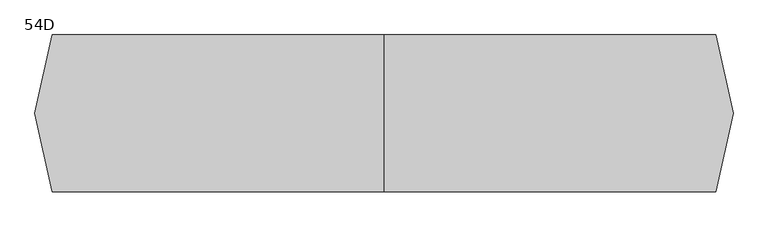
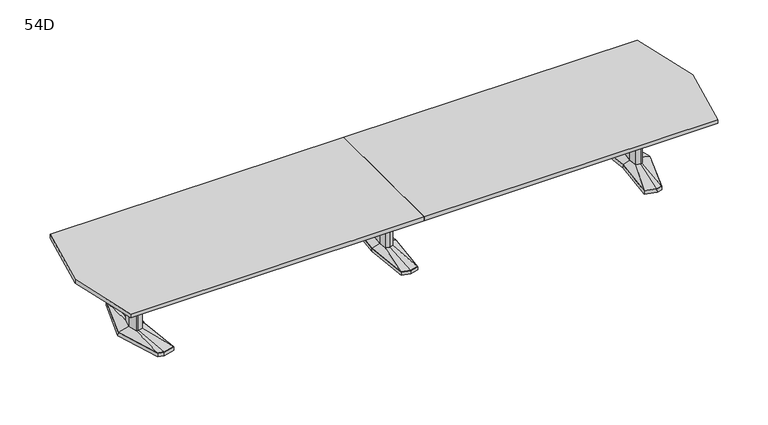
"""IFC4 building model written with IfcOpenShell, lengths in millimetres: furniture geometry, Coalesse_AM_Table_Conference_ETable2_Faceted_20ft_AluminiumBase : 54D."""

from ifc_helpers import new_model, si_unit, frame, origin, place, context, project, spatial, polyline, outline, extrude, faceted_brep, source, transform, mapped, element, save
from ifc_brep_helpers import plane_surface, spline_surface, advanced_brep


def furniture_54d_86afbeeb(model_context):
    return source(origin(), model_context, "Body", "SolidModel", [
        faceted_brep([(-81.2333791, -433.8053819, 38.1), (0.0, -455.556576, 38.1), (81.2333791, -433.8053819, 38.1), (119.0564774, 0.0, 38.1), (81.2333791, 433.8053819, 38.1), (0.0, 455.556576, 38.1), (-81.2333791, 433.8053819, 38.1), (-119.0564774, 0.0, 38.1), (-82.7182795, -435.0512063, 3.175), (-120.65, 0.0, 3.175), (-82.7182795, 435.0512063, 3.175), (0.0, 457.2, 3.175), (82.7182795, 435.0512063, 3.175), (120.65, 0.0, 3.175), (82.7182795, -435.0512063, 3.175), (0.0, -457.2, 3.175), (0.0, 429.2617927, 3.175), (-77.9676806, 408.3850278, 3.175), (-74.7019821, 382.9646737, 3.175), (0.0, 402.9670094, 3.175), (74.7019821, 382.9646737, 3.175), (77.9676806, 408.3850278, 3.175), (0.0, -429.2617927, 3.175), (77.9676806, -408.3850278, 3.175), (74.7019821, -382.9646737, 3.175), (0.0, -402.9670094, 3.175), (-74.7019821, -382.9646737, 3.175), (-77.9676806, -408.3850278, 3.175), (-71.8574262, 114.6326257, 3.175), (-82.5426076, 0.0, 3.175), (-71.8574262, -114.6326257, 3.175), (0.0, -133.8761372, 3.175), (71.8574262, -114.6326257, 3.175), (82.5426076, 0.0, 3.175), (71.8574262, 114.6326257, 3.175), (0.0, 133.8761372, 3.175), (0.0, 429.2617927, 0.0), (77.9676806, 408.3850278, 0.0), (74.7019821, 382.9646737, 0.0), (0.0, 402.9670094, 0.0), (-74.7019821, 382.9646737, 0.0), (-77.9676806, 408.3850278, 0.0), (0.0, -429.2617927, 0.0), (-77.9676806, -408.3850278, 0.0), (-74.7019821, -382.9646737, 0.0), (0.0, -402.9670094, 0.0), (74.7019821, -382.9646737, 0.0), (77.9676806, -408.3850278, 0.0), (-71.8574262, 114.6326257, 0.0), (0.0, 133.8761372, 0.0), (71.8574262, 114.6326257, 0.0), (82.5426076, 0.0, 0.0), (71.8574262, -114.6326257, 0.0), (0.0, -133.8761372, 0.0), (-71.8574262, -114.6326257, 0.0), (-82.5426076, 0.0, 0.0)], [[[0, 1, 2, 3, 4, 5, 6, 7]], [[8, 9, 10, 11, 12, 13, 14, 15], [16, 17, 18, 19, 20, 21], [22, 23, 24, 25, 26, 27], [28, 29, 30, 31, 32, 33, 34, 35]], [[1, 0, 8, 15]], [[2, 1, 15, 14]], [[3, 2, 14, 13]], [[4, 3, 13, 12]], [[5, 4, 12, 11]], [[6, 5, 11, 10]], [[7, 6, 10, 9]], [[0, 7, 9, 8]], [[36, 37, 38, 39, 40, 41]], [[42, 43, 44, 45, 46, 47]], [[48, 49, 50, 51, 52, 53, 54, 55]], [[36, 41, 17, 16]], [[41, 40, 18, 17]], [[40, 39, 19, 18]], [[39, 38, 20, 19]], [[38, 37, 21, 20]], [[37, 36, 16, 21]], [[42, 47, 23, 22]], [[47, 46, 24, 23]], [[46, 45, 25, 24]], [[45, 44, 26, 25]], [[44, 43, 27, 26]], [[43, 42, 22, 27]], [[48, 55, 29, 28]], [[55, 54, 30, 29]], [[54, 53, 31, 30]], [[53, 52, 32, 31]], [[52, 51, 33, 32]], [[51, 50, 34, 33]], [[50, 49, 35, 34]], [[49, 48, 28, 35]]]),
        faceted_brep([(-36.3832834, 84.6900825, 698.5), (-44.2774487, 0.0, 698.5), (-36.3832834, -84.6900825, 698.5), (0.0, -94.4335728, 698.5), (36.3832834, -84.6900825, 698.5), (44.2774487, 0.0, 698.5), (36.3832834, 84.6900825, 698.5), (0.0, 94.4335728, 698.5), (-36.3832834, 84.6900825, 63.5), (0.0, 94.4335728, 63.5), (36.3832834, 84.6900825, 63.5), (44.2774487, 0.0, 63.5), (36.3832834, -84.6900825, 63.5), (0.0, -94.4335728, 63.5), (-36.3832834, -84.6900825, 63.5), (-44.2774487, 0.0, 63.5)], [[[0, 1, 2, 3, 4, 5, 6, 7]], [[8, 9, 10, 11, 12, 13, 14, 15]], [[1, 0, 8, 15]], [[2, 1, 15, 14]], [[3, 2, 14, 13]], [[4, 3, 13, 12]], [[5, 4, 12, 11]], [[6, 5, 11, 10]], [[7, 6, 10, 9]], [[0, 7, 9, 8]]]),
        advanced_brep(
        [(-36.3832834, 84.6900825, 63.5), (-44.2774487, 0.0, 63.5), (-36.3832834, -84.6900825, 63.5), (0.0, -94.4335728, 63.5), (36.3832834, -84.6900825, 63.5), (44.2774487, 0.0, 63.5), (36.3832834, 84.6900825, 63.5), (0.0, 94.4335728, 63.5), (-81.2333791, 433.8053819, 38.1), (0.0, 455.556576, 38.1), (81.2333791, 433.8053819, 38.1), (119.0564774, 0.0, 38.1), (81.2333791, -433.8053819, 38.1), (0.0, -455.556576, 38.1), (-81.2333791, -433.8053819, 38.1), (-119.0564774, 0.0, 38.1)],
        [
            (0, 1),
            (1, 2),
            (2, 3),
            (3, 4),
            (4, 5),
            (5, 6),
            (6, 7),
            (7, 0),
            (8, 9),
            (9, 10),
            (10, 11),
            (11, 12),
            (12, 13),
            (13, 14),
            (14, 15),
            (15, 8),
            (15, 1),
            (0, 8),
            (14, 2),
            (13, 3),
            (12, 4),
            (11, 5),
            (10, 6),
            (9, 7),
        ],
        [
            plane_surface(frame((0.0, 0.0, 63.5), z_axis=(0.0, 0.0, 1.0000000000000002), x_axis=(-0.9659615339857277, -0.25868574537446, 0.0))),
            plane_surface(frame((0.0, 0.0, 38.1), z_axis=(0.0, 0.0, -1.0000000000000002), x_axis=(-0.9659615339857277, -0.25868574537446, 0.0))),
            spline_surface(1, 1, [[(-81.2333791, 433.8053819, 38.1), (-36.3832834, 84.6900825, 63.5)], [(-119.0564774, 0.0, 38.1), (-44.2774487, 0.0, 63.5)]], [2, 2], [2, 2], [0.0, 1.0], [0.0, 1.0]),
            spline_surface(1, 1, [[(-119.0564774, 0.0, 38.1), (-44.2774487, 0.0, 63.5)], [(-81.2333791, -433.8053819, 38.1), (-36.3832834, -84.6900825, 63.5)]], [2, 2], [2, 2], [0.0, 1.0], [0.0, 1.0]),
            spline_surface(1, 1, [[(-81.2333791, -433.8053819, 38.1), (-36.3832834, -84.6900825, 63.5)], [(0.0, -455.556576, 38.1), (0.0, -94.4335728, 63.5)]], [2, 2], [2, 2], [0.0, 1.0], [0.0, 1.0]),
            spline_surface(1, 1, [[(0.0, -455.556576, 38.1), (0.0, -94.4335728, 63.5)], [(81.2333791, -433.8053819, 38.1), (36.3832834, -84.6900825, 63.5)]], [2, 2], [2, 2], [0.0, 1.0], [0.0, 1.0]),
            spline_surface(1, 1, [[(81.2333791, -433.8053819, 38.1), (36.3832834, -84.6900825, 63.5)], [(119.0564774, 0.0, 38.1), (44.2774487, 0.0, 63.5)]], [2, 2], [2, 2], [0.0, 1.0], [0.0, 1.0]),
            spline_surface(1, 1, [[(119.0564774, 0.0, 38.1), (44.2774487, 0.0, 63.5)], [(81.2333791, 433.8053819, 38.1), (36.3832834, 84.6900825, 63.5)]], [2, 2], [2, 2], [0.0, 1.0], [0.0, 1.0]),
            spline_surface(1, 1, [[(81.2333791, 433.8053819, 38.1), (36.3832834, 84.6900825, 63.5)], [(0.0, 455.556576, 38.1), (0.0, 94.4335728, 63.5)]], [2, 2], [2, 2], [0.0, 1.0], [0.0, 1.0]),
            spline_surface(1, 1, [[(0.0, 455.556576, 38.1), (0.0, 94.4335728, 63.5)], [(-81.2333791, 433.8053819, 38.1), (-36.3832834, 84.6900825, 63.5)]], [2, 2], [2, 2], [0.0, 1.0], [0.0, 1.0]),
        ],
        [
            (0, [[1, 2, 3, 4, 5, 6, 7, 8]]),
            (1, [[9, 10, 11, 12, 13, 14, 15, 16]]),
            (2, [[-16, 17, -1, 18]]),
            (3, [[-15, 19, -2, -17]]),
            (4, [[-14, 20, -3, -19]]),
            (5, [[-13, 21, -4, -20]]),
            (6, [[-12, 22, -5, -21]]),
            (7, [[-11, 23, -6, -22]]),
            (8, [[-10, 24, -7, -23]]),
            (9, [[-9, -18, -8, -24]]),
        ],
    ),
        faceted_brep([(2429.8306835, 455.5848221, 38.1), (2320.2531277, 426.2263816, 38.1), (2361.4163717, 0.0, 38.1), (2320.2531277, -426.2263816, 38.1), (2429.8306835, -455.5848221, 38.1), (2485.9570396, -440.5478297, 38.1), (2623.2684269, 0.0, 38.1), (2485.9570396, 440.5478297, 38.1), (2429.8306754, 457.2283104, 3.175), (2487.2124472, 441.8549756, 3.175), (2624.93125, 0.0, 3.175), (2487.2124472, -441.8549756, 3.175), (2429.8306754, -457.2283104, 3.175), (2318.54375, -427.4118891, 3.175), (2359.8214856, 0.0, 3.175), (2318.54375, 427.4118891, 3.175), (2433.420115, 428.3273875, 3.175), (2328.3718228, 402.1057253, 3.175), (2336.490518, 377.985069, 3.175), (2437.0095466, 401.0699529, 3.175), (2487.5691725, 387.524361, 3.175), (2486.7631061, 414.0360954, 3.175), (2433.420115, -428.3273875, 3.175), (2486.7631061, -414.0360954, 3.175), (2487.5691725, -387.524361, 3.175), (2437.0095466, -401.0699529, 3.175), (2336.490518, -377.985069, 3.175), (2328.3718228, -402.1057253, 3.175), (2560.0153621, 0.0, 3.175), (2527.7459611, 120.4193755, 3.175), (2479.0987222, 133.471665, 3.175), (2399.2180526, 119.4176561, 3.175), (2388.0868466, 0.0, 3.175), (2399.2180526, -119.4176561, 3.175), (2479.0987222, -133.471665, 3.175), (2527.7459611, -120.4193755, 3.175), (2433.420115, 428.3273875, 0.0), (2486.7631061, 414.0360954, 0.0), (2487.5691725, 387.524361, 0.0), (2437.0095466, 401.0699529, 0.0), (2336.490518, 377.985069, 0.0), (2328.3718228, 402.1057253, 0.0), (2433.420115, -428.3273875, 0.0), (2328.3718228, -402.1057253, 0.0), (2336.490518, -377.985069, 0.0), (2437.0095466, -401.0699529, 0.0), (2487.5691725, -387.524361, 0.0), (2486.7631061, -414.0360954, 0.0), (2560.0153621, 0.0, 0.0), (2527.7459611, -120.4193755, 0.0), (2479.0987222, -133.471665, 0.0), (2399.2180526, -119.4176561, 0.0), (2388.0868466, 0.0, 0.0), (2399.2180526, 119.4176561, 0.0), (2479.0987222, 133.471665, 0.0), (2527.7459611, 120.4193755, 0.0)], [[[0, 1, 2, 3, 4, 5, 6, 7]], [[8, 9, 10, 11, 12, 13, 14, 15], [16, 17, 18, 19, 20, 21], [22, 23, 24, 25, 26, 27], [28, 29, 30, 31, 32, 33, 34, 35]], [[7, 9, 8, 0]], [[6, 10, 9, 7]], [[5, 11, 10, 6]], [[4, 12, 11, 5]], [[3, 13, 12, 4]], [[2, 14, 13, 3]], [[1, 15, 14, 2]], [[0, 8, 15, 1]], [[36, 37, 38, 39, 40, 41]], [[42, 43, 44, 45, 46, 47]], [[48, 49, 50, 51, 52, 53, 54, 55]], [[36, 16, 21, 37]], [[37, 21, 20, 38]], [[38, 20, 19, 39]], [[39, 19, 18, 40]], [[40, 18, 17, 41]], [[41, 17, 16, 36]], [[42, 22, 27, 43]], [[43, 27, 26, 44]], [[44, 26, 25, 45]], [[45, 25, 24, 46]], [[46, 24, 23, 47]], [[47, 23, 22, 42]], [[48, 28, 35, 49]], [[49, 35, 34, 50]], [[50, 34, 33, 51]], [[51, 33, 32, 52]], [[52, 32, 31, 53]], [[53, 31, 30, 54]], [[54, 30, 29, 55]], [[55, 29, 28, 48]]]),
        faceted_brep([(2520.5710836, 0.0, 698.5), (2496.6358546, 89.3188359, 698.5), (2479.7824984, 93.8406728, 698.5), (2477.3826511, 94.4845635, 698.5), (2434.455146, 86.9320037, 698.5), (2426.3520056, 0.0, 698.5), (2434.455146, -86.9320037, 698.5), (2477.3826511, -94.4845635, 698.5), (2479.7824984, -93.8406728, 698.5), (2496.6358546, -89.3188359, 698.5), (2520.5710836, 0.0, 63.5), (2496.6358546, -89.3188359, 63.5), (2479.7824984, -93.8406728, 63.5), (2477.3826511, -94.4845635, 63.5), (2434.455146, -86.9320037, 63.5), (2426.3520056, 0.0, 63.5), (2434.455146, 86.9320037, 63.5), (2477.3826511, 94.4845635, 63.5), (2479.7824984, 93.8406728, 63.5), (2496.6358546, 89.3188359, 63.5)], [[[0, 1, 2, 3, 4, 5, 6, 7, 8, 9]], [[10, 11, 12, 13, 14, 15, 16, 17, 18, 19]], [[9, 11, 10, 0]], [[8, 12, 11, 9]], [[7, 13, 12, 8]], [[6, 14, 13, 7]], [[5, 15, 14, 6]], [[4, 16, 15, 5]], [[3, 17, 16, 4]], [[2, 18, 17, 3]], [[1, 19, 18, 2]], [[0, 10, 19, 1]]]),
        advanced_brep(
        [(2477.3826511, 94.4845635, 63.5), (2434.455146, 86.9320037, 63.5), (2426.3520056, 0.0, 63.5), (2434.455146, -86.9320037, 63.5), (2477.3826511, -94.4845635, 63.5), (2496.6358546, -89.3188359, 63.5), (2520.5710836, 0.0, 63.5), (2496.6358546, 89.3188359, 63.5), (2429.8306835, 455.5848221, 38.1), (2485.9570396, 440.5478297, 38.1), (2623.2684269, 0.0, 38.1), (2485.9570396, -440.5478297, 38.1), (2429.8306835, -455.5848221, 38.1), (2320.2531277, -426.2263816, 38.1), (2361.4163717, 0.0, 38.1), (2320.2531277, 426.2263816, 38.1)],
        [
            (0, 1),
            (1, 2),
            (2, 3),
            (3, 4),
            (4, 5),
            (5, 6),
            (6, 7),
            (7, 0),
            (8, 9),
            (9, 10),
            (10, 11),
            (11, 12),
            (12, 13),
            (13, 14),
            (14, 15),
            (15, 8),
            (8, 0),
            (7, 9),
            (6, 10),
            (5, 11),
            (4, 12),
            (3, 13),
            (2, 14),
            (1, 15),
        ],
        [
            plane_surface(frame((2470.4837991, 0.0, 63.5), z_axis=(0.0, 0.0, 1.0), x_axis=(-0.25884244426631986, -0.9659195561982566, 0.0))),
            plane_surface(frame((2432.0958125, 0.0, 38.1), z_axis=(0.0, 0.0, -1.0), x_axis=(-0.25884244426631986, -0.9659195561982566, 0.0))),
            spline_surface(1, 1, [[(2429.8306835, 455.5848221, 38.1), (2485.9570396, 440.5478297, 38.1)], [(2477.3826511, 94.4845635, 63.5), (2496.6358546, 89.3188359, 63.5)]], [2, 2], [2, 2], [0.0, 1.0], [0.0, 1.0]),
            spline_surface(1, 1, [[(2485.9570396, 440.5478297, 38.1), (2623.2684269, 0.0, 38.1)], [(2496.6358546, 89.3188359, 63.5), (2520.5710836, 0.0, 63.5)]], [2, 2], [2, 2], [0.0, 1.0], [0.0, 1.0]),
            spline_surface(1, 1, [[(2623.2684269, 0.0, 38.1), (2485.9570396, -440.5478297, 38.1)], [(2520.5710836, 0.0, 63.5), (2496.6358546, -89.3188359, 63.5)]], [2, 2], [2, 2], [0.0, 1.0], [0.0, 1.0]),
            spline_surface(1, 1, [[(2485.9570396, -440.5478297, 38.1), (2429.8306835, -455.5848221, 38.1)], [(2496.6358546, -89.3188359, 63.5), (2477.3826511, -94.4845635, 63.5)]], [2, 2], [2, 2], [0.0, 1.0], [0.0, 1.0]),
            spline_surface(1, 1, [[(2429.8306835, -455.5848221, 38.1), (2320.2531277, -426.2263816, 38.1)], [(2477.3826511, -94.4845635, 63.5), (2434.455146, -86.9320037, 63.5)]], [2, 2], [2, 2], [0.0, 1.0], [0.0, 1.0]),
            spline_surface(1, 1, [[(2320.2531277, -426.2263816, 38.1), (2361.4163717, 0.0, 38.1)], [(2434.455146, -86.9320037, 63.5), (2426.3520056, 0.0, 63.5)]], [2, 2], [2, 2], [0.0, 1.0], [0.0, 1.0]),
            spline_surface(1, 1, [[(2361.4163717, 0.0, 38.1), (2320.2531277, 426.2263816, 38.1)], [(2426.3520056, 0.0, 63.5), (2434.455146, 86.9320037, 63.5)]], [2, 2], [2, 2], [0.0, 1.0], [0.0, 1.0]),
            spline_surface(1, 1, [[(2320.2531277, 426.2263816, 38.1), (2429.8306835, 455.5848221, 38.1)], [(2434.455146, 86.9320037, 63.5), (2477.3826511, 94.4845635, 63.5)]], [2, 2], [2, 2], [0.0, 1.0], [0.0, 1.0]),
        ],
        [
            (0, [[1, 2, 3, 4, 5, 6, 7, 8]]),
            (1, [[9, 10, 11, 12, 13, 14, 15, 16]]),
            (2, [[17, -8, 18, -9]]),
            (3, [[-18, -7, 19, -10]]),
            (4, [[-19, -6, 20, -11]]),
            (5, [[-20, -5, 21, -12]]),
            (6, [[-21, -4, 22, -13]]),
            (7, [[-22, -3, 23, -14]]),
            (8, [[-23, -2, 24, -15]]),
            (9, [[-24, -1, -17, -16]]),
        ],
    ),
        faceted_brep([(-2429.8306835, 455.5848221, 38.1), (-2485.9570396, 440.5478297, 38.1), (-2623.2684269, 0.0, 38.1), (-2485.9570396, -440.5478297, 38.1), (-2429.8306835, -455.5848221, 38.1), (-2320.2531277, -426.2263816, 38.1), (-2361.4163717, 0.0, 38.1), (-2320.2531277, 426.2263816, 38.1), (-2429.8306754, 457.2283104, 3.175), (-2318.54375, 427.4118891, 3.175), (-2359.8214856, 0.0, 3.175), (-2318.54375, -427.4118891, 3.175), (-2429.8306754, -457.2283104, 3.175), (-2487.2124472, -441.8549756, 3.175), (-2624.93125, 0.0, 3.175), (-2487.2124472, 441.8549756, 3.175), (-2433.420115, 428.3273875, 3.175), (-2486.7631061, 414.0360954, 3.175), (-2487.5691725, 387.524361, 3.175), (-2437.0095466, 401.0699529, 3.175), (-2336.490518, 377.985069, 3.175), (-2328.3718228, 402.1057253, 3.175), (-2433.420115, -428.3273875, 3.175), (-2328.3718228, -402.1057253, 3.175), (-2336.490518, -377.985069, 3.175), (-2437.0095466, -401.0699529, 3.175), (-2487.5691725, -387.524361, 3.175), (-2486.7631061, -414.0360954, 3.175), (-2560.0153621, 0.0, 3.175), (-2527.7459611, -120.4193755, 3.175), (-2479.0987222, -133.471665, 3.175), (-2399.2180526, -119.4176561, 3.175), (-2388.0868466, 0.0, 3.175), (-2399.2180526, 119.4176561, 3.175), (-2479.0987222, 133.471665, 3.175), (-2527.7459611, 120.4193755, 3.175), (-2433.420115, 428.3273875, 0.0), (-2328.3718228, 402.1057253, 0.0), (-2336.490518, 377.985069, 0.0), (-2437.0095466, 401.0699529, 0.0), (-2487.5691725, 387.524361, 0.0), (-2486.7631061, 414.0360954, 0.0), (-2433.420115, -428.3273875, 0.0), (-2486.7631061, -414.0360954, 0.0), (-2487.5691725, -387.524361, 0.0), (-2437.0095466, -401.0699529, 0.0), (-2336.490518, -377.985069, 0.0), (-2328.3718228, -402.1057253, 0.0), (-2560.0153621, 0.0, 0.0), (-2527.7459611, 120.4193755, 0.0), (-2479.0987222, 133.471665, 0.0), (-2399.2180526, 119.4176561, 0.0), (-2388.0868466, 0.0, 0.0), (-2399.2180526, -119.4176561, 0.0), (-2479.0987222, -133.471665, 0.0), (-2527.7459611, -120.4193755, 0.0)], [[[0, 1, 2, 3, 4, 5, 6, 7]], [[8, 9, 10, 11, 12, 13, 14, 15], [16, 17, 18, 19, 20, 21], [22, 23, 24, 25, 26, 27], [28, 29, 30, 31, 32, 33, 34, 35]], [[1, 0, 8, 15]], [[2, 1, 15, 14]], [[3, 2, 14, 13]], [[4, 3, 13, 12]], [[5, 4, 12, 11]], [[6, 5, 11, 10]], [[7, 6, 10, 9]], [[0, 7, 9, 8]], [[36, 37, 38, 39, 40, 41]], [[42, 43, 44, 45, 46, 47]], [[48, 49, 50, 51, 52, 53, 54, 55]], [[36, 41, 17, 16]], [[41, 40, 18, 17]], [[40, 39, 19, 18]], [[39, 38, 20, 19]], [[38, 37, 21, 20]], [[37, 36, 16, 21]], [[42, 47, 23, 22]], [[47, 46, 24, 23]], [[46, 45, 25, 24]], [[45, 44, 26, 25]], [[44, 43, 27, 26]], [[43, 42, 22, 27]], [[48, 55, 29, 28]], [[55, 54, 30, 29]], [[54, 53, 31, 30]], [[53, 52, 32, 31]], [[52, 51, 33, 32]], [[51, 50, 34, 33]], [[50, 49, 35, 34]], [[49, 48, 28, 35]]]),
        faceted_brep([(-2520.5710836, 0.0, 698.5), (-2496.6358546, -89.3188359, 698.5), (-2479.7824984, -93.8406728, 698.5), (-2477.3826511, -94.4845635, 698.5), (-2434.455146, -86.9320037, 698.5), (-2426.3520056, 0.0, 698.5), (-2434.455146, 86.9320037, 698.5), (-2477.3826511, 94.4845635, 698.5), (-2479.7824984, 93.8406728, 698.5), (-2496.6358546, 89.3188359, 698.5), (-2520.5710836, 0.0, 63.5), (-2496.6358546, 89.3188359, 63.5), (-2479.7824984, 93.8406728, 63.5), (-2477.3826511, 94.4845635, 63.5), (-2434.455146, 86.9320037, 63.5), (-2426.3520056, 0.0, 63.5), (-2434.455146, -86.9320037, 63.5), (-2477.3826511, -94.4845635, 63.5), (-2479.7824984, -93.8406728, 63.5), (-2496.6358546, -89.3188359, 63.5)], [[[0, 1, 2, 3, 4, 5, 6, 7, 8, 9]], [[10, 11, 12, 13, 14, 15, 16, 17, 18, 19]], [[1, 0, 10, 19]], [[2, 1, 19, 18]], [[3, 2, 18, 17]], [[4, 3, 17, 16]], [[5, 4, 16, 15]], [[6, 5, 15, 14]], [[7, 6, 14, 13]], [[8, 7, 13, 12]], [[9, 8, 12, 11]], [[0, 9, 11, 10]]]),
        advanced_brep(
        [(-2477.3826511, 94.4845635, 63.5), (-2496.6358546, 89.3188359, 63.5), (-2520.5710836, 0.0, 63.5), (-2496.6358546, -89.3188359, 63.5), (-2477.3826511, -94.4845635, 63.5), (-2434.455146, -86.9320037, 63.5), (-2426.3520056, 0.0, 63.5), (-2434.455146, 86.9320037, 63.5), (-2429.8306835, 455.5848221, 38.1), (-2320.2531277, 426.2263816, 38.1), (-2361.4163717, 0.0, 38.1), (-2320.2531277, -426.2263816, 38.1), (-2429.8306835, -455.5848221, 38.1), (-2485.9570396, -440.5478297, 38.1), (-2623.2684269, 0.0, 38.1), (-2485.9570396, 440.5478297, 38.1)],
        [
            (0, 1),
            (1, 2),
            (2, 3),
            (3, 4),
            (4, 5),
            (5, 6),
            (6, 7),
            (7, 0),
            (8, 9),
            (9, 10),
            (10, 11),
            (11, 12),
            (12, 13),
            (13, 14),
            (14, 15),
            (15, 8),
            (15, 1),
            (0, 8),
            (14, 2),
            (13, 3),
            (12, 4),
            (11, 5),
            (10, 6),
            (9, 7),
        ],
        [
            plane_surface(frame((-2470.4837991, 0.0, 63.5), z_axis=(0.0, 0.0, 1.0), x_axis=(0.25884244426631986, -0.9659195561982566, 0.0))),
            plane_surface(frame((-2432.0958125, 0.0, 38.1), z_axis=(0.0, 0.0, -1.0), x_axis=(0.25884244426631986, -0.9659195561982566, 0.0))),
            spline_surface(1, 1, [[(-2429.8306835, 455.5848221, 38.1), (-2477.3826511, 94.4845635, 63.5)], [(-2485.9570396, 440.5478297, 38.1), (-2496.6358546, 89.3188359, 63.5)]], [2, 2], [2, 2], [0.0, 1.0], [0.0, 1.0]),
            spline_surface(1, 1, [[(-2485.9570396, 440.5478297, 38.1), (-2496.6358546, 89.3188359, 63.5)], [(-2623.2684269, 0.0, 38.1), (-2520.5710836, 0.0, 63.5)]], [2, 2], [2, 2], [0.0, 1.0], [0.0, 1.0]),
            spline_surface(1, 1, [[(-2623.2684269, 0.0, 38.1), (-2520.5710836, 0.0, 63.5)], [(-2485.9570396, -440.5478297, 38.1), (-2496.6358546, -89.3188359, 63.5)]], [2, 2], [2, 2], [0.0, 1.0], [0.0, 1.0]),
            spline_surface(1, 1, [[(-2485.9570396, -440.5478297, 38.1), (-2496.6358546, -89.3188359, 63.5)], [(-2429.8306835, -455.5848221, 38.1), (-2477.3826511, -94.4845635, 63.5)]], [2, 2], [2, 2], [0.0, 1.0], [0.0, 1.0]),
            spline_surface(1, 1, [[(-2429.8306835, -455.5848221, 38.1), (-2477.3826511, -94.4845635, 63.5)], [(-2320.2531277, -426.2263816, 38.1), (-2434.455146, -86.9320037, 63.5)]], [2, 2], [2, 2], [0.0, 1.0], [0.0, 1.0]),
            spline_surface(1, 1, [[(-2320.2531277, -426.2263816, 38.1), (-2434.455146, -86.9320037, 63.5)], [(-2361.4163717, 0.0, 38.1), (-2426.3520056, 0.0, 63.5)]], [2, 2], [2, 2], [0.0, 1.0], [0.0, 1.0]),
            spline_surface(1, 1, [[(-2361.4163717, 0.0, 38.1), (-2426.3520056, 0.0, 63.5)], [(-2320.2531277, 426.2263816, 38.1), (-2434.455146, 86.9320037, 63.5)]], [2, 2], [2, 2], [0.0, 1.0], [0.0, 1.0]),
            spline_surface(1, 1, [[(-2320.2531277, 426.2263816, 38.1), (-2434.455146, 86.9320037, 63.5)], [(-2429.8306835, 455.5848221, 38.1), (-2477.3826511, 94.4845635, 63.5)]], [2, 2], [2, 2], [0.0, 1.0], [0.0, 1.0]),
        ],
        [
            (0, [[1, 2, 3, 4, 5, 6, 7, 8]]),
            (1, [[9, 10, 11, 12, 13, 14, 15, 16]]),
            (2, [[-16, 17, -1, 18]]),
            (3, [[-15, 19, -2, -17]]),
            (4, [[-14, 20, -3, -19]]),
            (5, [[-13, 21, -4, -20]]),
            (6, [[-12, 22, -5, -21]]),
            (7, [[-11, 23, -6, -22]]),
            (8, [[-10, 24, -7, -23]]),
            (9, [[-9, -18, -8, -24]]),
        ],
    ),
        extrude(outline(polyline([(96.8375, 698.5), (103.1875, 698.5), (103.1875, 476.25), (-103.1875, 476.25), (-103.1875, 698.5), (-96.8375, 698.5), (-96.8375, 482.6), (96.8375, 482.6), (96.8375, 698.5)])), frame((44.2774487, 0.0, 0.0), z_axis=(1.0, 0.0, 0.0), x_axis=(0.0, 1.0, 0.0)), (0.0, 0.0, 1.0), 2382.2163013),
        extrude(outline(polyline([(2895.9609518, 685.8), (3048.0, 0.0), (2895.9609518, -685.8), (0.0, -685.8), (0.0, 685.8), (2895.9609518, 685.8)])), frame((0.0, 0.0, 698.5), z_axis=(0.0, 0.0, 1.0), x_axis=(1.0, 0.0, 0.0)), (0.0, 0.0, 1.0), 38.1),
        extrude(outline(polyline([(0.0, -685.8), (-2895.9609518, -685.8), (-3048.0, 0.0), (-2895.9609518, 685.8), (0.0, 685.8), (0.0, -685.8)])), frame((0.0, 0.0, 698.5), z_axis=(0.0, 0.0, 1.0), x_axis=(1.0, 0.0, 0.0)), (0.0, 0.0, 1.0), 38.1),
        extrude(outline(polyline([(96.8375, 698.5), (103.1875, 698.5), (103.1875, 476.25), (-103.1875, 476.25), (-103.1875, 698.5), (-96.8375, 698.5), (-96.8375, 482.6), (96.8375, 482.6), (96.8375, 698.5)])), frame((-2426.49375, 0.0, 0.0), z_axis=(1.0, 0.0, 0.0), x_axis=(0.0, 1.0, 0.0)), (0.0, 0.0, 1.0), 2382.2163013),
    ])


if __name__ == "__main__":
    model = new_model("IFC4")
    model_context = context("Model", 3, world=origin())
    ifc_project = project(units=[si_unit("LENGTHUNIT", "METRE", prefix="MILLI")], contexts=[model_context])
    site = spatial("IfcSite", under=ifc_project)
    building = spatial("IfcBuilding", under=site)
    placement = place(None, origin())
    furniture_54d_shape = furniture_54d_86afbeeb(model_context)
    element("IfcFurniture", 1, ObjectType="Coalesse_AM_Table_Conference_ETable2_Faceted_20ft_AluminiumBase : 54D", at=placement, inside=building, context=model_context, shape_type="MappedRepresentation", body=[
        mapped(furniture_54d_shape, transform((0.0, 0.0, 0.0), x_axis=(1.0, 0.0, 0.0), y_axis=(0.0, 1.0, 0.0), z_axis=(0.0, 0.0, 1.0))),
    ])
    save(model, "model.ifc")
